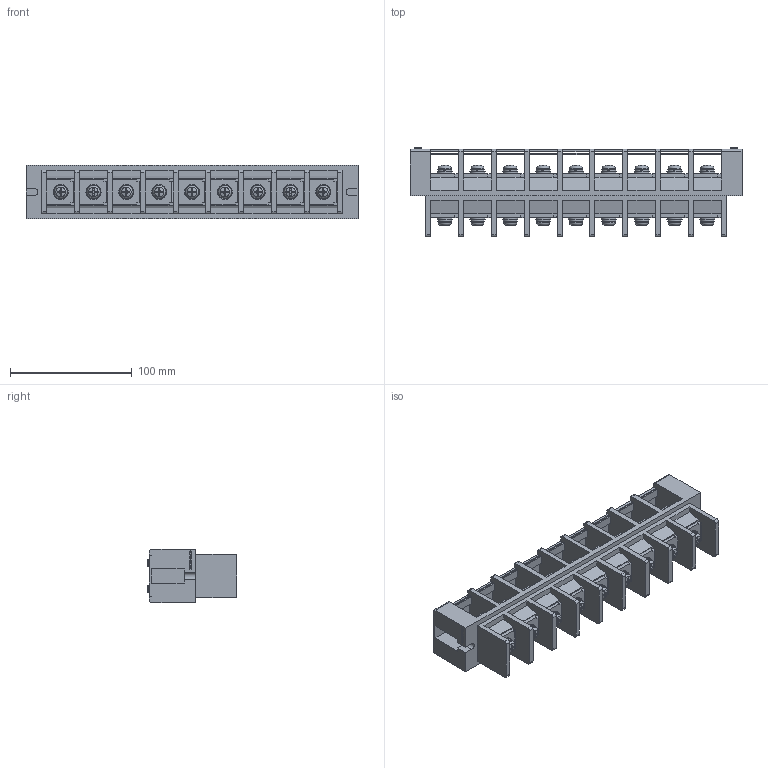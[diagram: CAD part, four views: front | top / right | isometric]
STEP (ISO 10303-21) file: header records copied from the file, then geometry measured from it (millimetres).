
FILE_DESCRIPTION(/* description */ ('Alibre Inc.'),/* implementation_level */ '2;1');
FILE_NAME(/* name */ 'export0',/* time_stamp */ '2016-04-05T18:27:30+09:00',/* author */ (''),/* organization */ (''),/* preprocessor_version */ 'ST-DEVELOPER v14',/* originating_system */ 'Alibre',/* authorisation */ '');
FILE_SCHEMA (('CONFIG_CONTROL_DESIGN'));
Length unit declared in the file: centimetre
Products named in the file (1): ID_1
Bounding box: 273 x 73.94 x 44 mm (x, y, z)
Volume: 301657.9 mm3; surface area: 145933.1 mm2
Topology: 11 solids, 13 shells, 1333 faces, 3718 edges, 2415 vertices
Faces by surface type: plane 929, cylinder 214, cone 98, bspline 52, torus 20, sphere 20
Full cylindrical faces by diameter (mm): 3 x4, 5.5 x2, 6 x18, 8 x18, 10.5 x18, 12.5 x18
Entity records: 40256 total; most frequent: CARTESIAN_POINT 8144, ORIENTED_EDGE 7146, DIRECTION 5496, EDGE_CURVE 3573, VERTEX_POINT 2386, VECTOR 2251, LINE 2251, AXIS2_PLACEMENT_3D 2083
